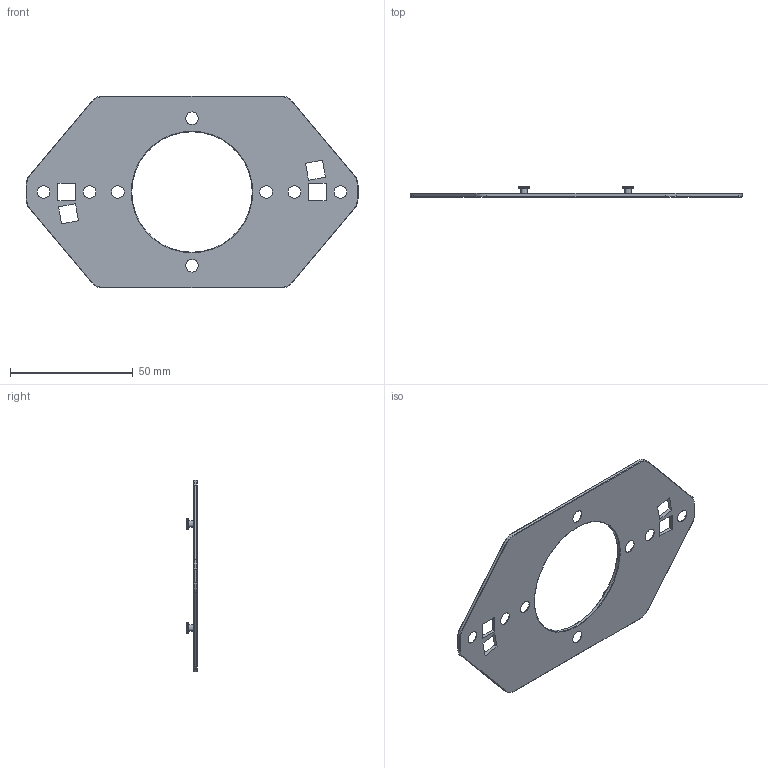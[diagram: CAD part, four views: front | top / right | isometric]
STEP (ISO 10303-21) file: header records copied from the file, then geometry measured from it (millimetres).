
FILE_DESCRIPTION(/* description */ ('STEP AP242','CAx-IF Rec.Pracs.---Representation and Presentation of Product Manufacturing Information (PMI)---4.0---2014-10-13','CAx-IF Rec.Pracs.---3D Tessellated Geometry---0.4---2014-09-14','2;1'),/* implementation_level */ '2;1');
FILE_NAME(/* name */ '6634d4825996e81fac3b1ee0',/* time_stamp */ '2024-05-03T12:11:47Z',/* author */ (''),/* organization */ (''),/* preprocessor_version */ 'ST-DEVELOPER v20',/* originating_system */ ' ',/* authorisation */ ' ');
FILE_SCHEMA (('AP242_MANAGED_MODEL_BASED_3D_ENGINEERING_MIM_LF { 1 0 10303 442 1 1 4 }'));
Length unit declared in the file: metre
Products named in the file (1): UMP 5
Bounding box: 135 x 4.25 x 78 mm (x, y, z)
Volume: 9415.4 mm3; surface area: 13806.3 mm2
Topology: 1 solids, 1 shells, 101 faces, 231 edges, 140 vertices
Faces by surface type: plane 34, cylinder 33, torus 26, cone 8
Full cylindrical faces by diameter (mm): 2.5 x4, 4.5 x4, 49 x1
Entity records: 2945 total; most frequent: DIRECTION 516, CARTESIAN_POINT 446, ORIENTED_EDGE 408, AXIS2_PLACEMENT_3D 210, EDGE_CURVE 204, EDGE_LOOP 162, FACE_BOUND 162, VERTEX_POINT 140
